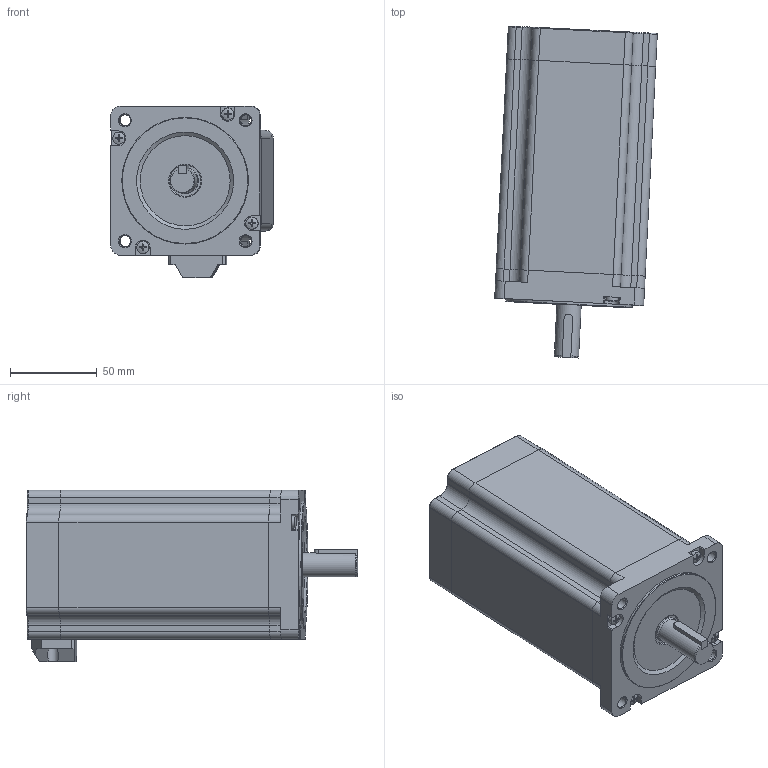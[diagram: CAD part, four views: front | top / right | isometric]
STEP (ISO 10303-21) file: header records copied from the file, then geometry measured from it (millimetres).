
FILE_DESCRIPTION( ('This file contains a STEP AP42 implementation' ,'as created by ZW3D STEP Interface translator.' ,'') ,'2;1' );
FILE_NAME( 'AM510A-86A1200-0000.stp' ,'24 723. 92454', (''), ('ZWCAD Software Co.'), 'Version 1.0', 'ZW3D to STEP translator', '' );
FILE_SCHEMA(('AUTOMOTIVE_DESIGN { 1 0 10303 214 1 1 1 1 }'));
Length unit declared in the file: millimetre
Products named in the file (6): 0; 86HS156TF070X-03; 86HS156TF070X-03(默认); 揤盄啣; 蹟隊 GB_T 823-M3x6_3; 蹟隊 GB_T 823-M4x40_3
Assembly tree (8 placements, depth 2):
  0
  86HS156TF070X-03
    86HS156TF070X-03(默认)
    揤盄啣
    蹟隊 GB_T 823-M3x6_3  x2
    蹟隊 GB_T 823-M4x40_3  x4
Bounding box: 93.63 x 191.22 x 98.9 mm (x, y, z)
Volume: 1056796.9 mm3; surface area: 101408.1 mm2
Topology: 11 solids, 11 shells, 362 faces, 926 edges, 592 vertices
Faces by surface type: plane 151, cylinder 137, cone 46, torus 21, sphere 6, bspline 1
Full cylindrical faces by diameter (mm): 2.5 x4, 3 x4, 3.3 x8, 3.5 x2, 4 x8, 4.5 x4, 5.5 x2, 6.3 x2, 6.5 x4, 7 x4, 14 x1, 15 x2, 18 x2, 73 x1
Entity records: 8735 total; most frequent: CARTESIAN_POINT 1564, DIRECTION 1479, ORIENTED_EDGE 1358, EDGE_CURVE 679, AXIS2_PLACEMENT_3D 560, VERTEX_POINT 437, VECTOR 359, LINE 359
